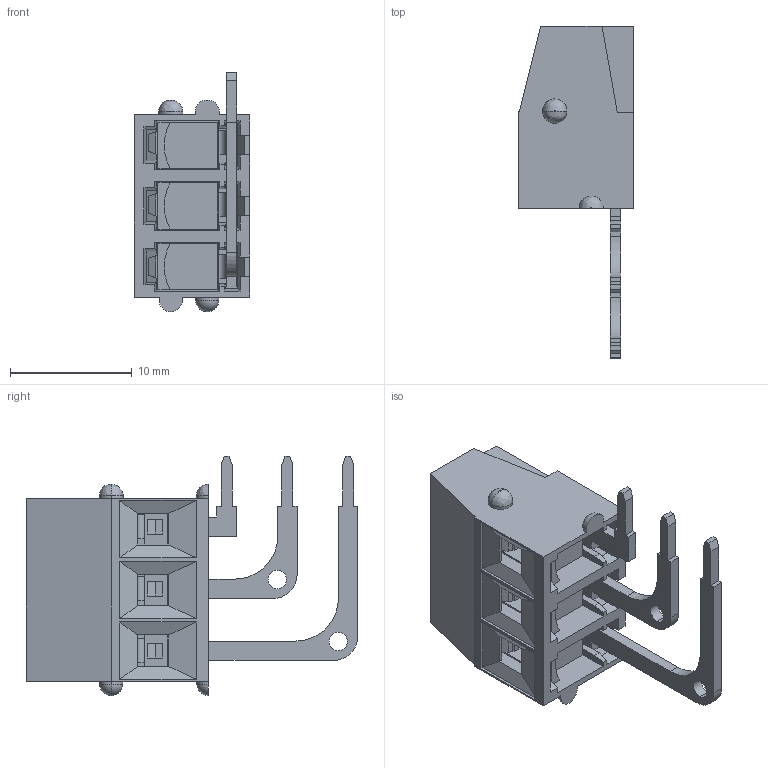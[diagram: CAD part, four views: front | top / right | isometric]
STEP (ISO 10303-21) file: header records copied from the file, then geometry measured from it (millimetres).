
FILE_DESCRIPTION((''),'2;1');
FILE_NAME('V303018100J0G','2021-04-07T',('renkang.li'),(''),'CREO PARAMETRIC BY PTC INC, 2016260','CREO PARAMETRIC BY PTC INC, 2016260','');
FILE_SCHEMA(('CONFIG_CONTROL_DESIGN'));
Length unit declared in the file: millimetre
Products named in the file (1): V303018100J0G
Bounding box: 9.5 x 27.3 x 19.7 mm (x, y, z)
Volume: 1307.7 mm3; surface area: 3311.2 mm2
Topology: 2 solids, 2 shells, 634 faces, 1848 edges, 1226 vertices
Faces by surface type: plane 445, cylinder 95, bspline 67, torus 18, cone 6, sphere 3
Entity records: 28937 total; most frequent: CARTESIAN_POINT 12594, ORIENTED_EDGE 3686, DIRECTION 2928, EDGE_CURVE 1843, VECTOR 1300, LINE 1300, VERTEX_POINT 1226, AXIS2_PLACEMENT_3D 814
